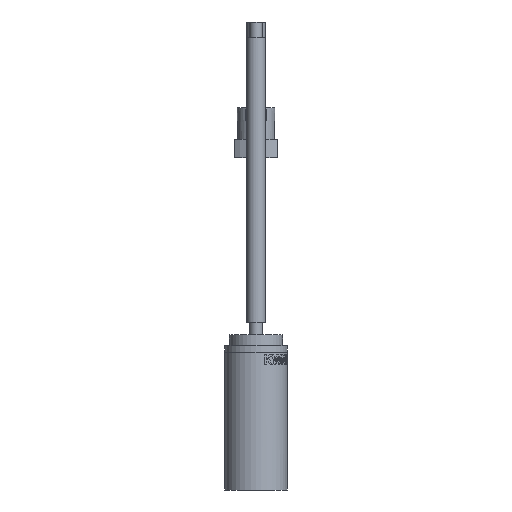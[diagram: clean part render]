
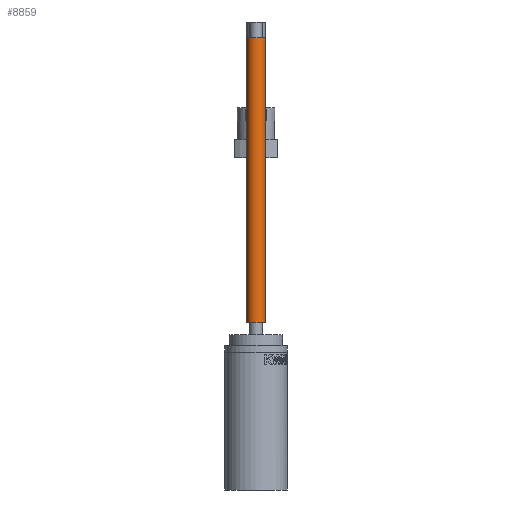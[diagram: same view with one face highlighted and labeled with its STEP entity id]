
A CAD part, left-side view. The second image highlights one B-rep face of the part: STEP entity #8859.
In plain terms, the highlighted cylindrical face has radius 1.5 mm (diameter 3 mm), a full revolution.
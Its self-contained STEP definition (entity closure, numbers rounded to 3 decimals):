
#8859=ADVANCED_FACE('',(#9605,#9606),#9072,.T.);
#9072=CYLINDRICAL_SURFACE('',#20312,1.5);
#9605=FACE_BOUND('',#10865,.T.);
#9606=FACE_BOUND('',#10866,.T.);
#10865=EDGE_LOOP('',(#14972));
#10866=EDGE_LOOP('',(#14973));
#14972=ORIENTED_EDGE('',*,*,#18650,.F.);
#14973=ORIENTED_EDGE('',*,*,#18651,.T.);
#16558=VERTEX_POINT('',#45003);
#16559=VERTEX_POINT('',#45005);
#18650=EDGE_CURVE('',#16558,#16558,#19143,.T.);
#18651=EDGE_CURVE('',#16559,#16559,#19144,.T.);
#19143=CIRCLE('',#20310,1.5);
#19144=CIRCLE('',#20311,1.5);
#20310=AXIS2_PLACEMENT_3D('',#45002,#23047,#23048);
#20311=AXIS2_PLACEMENT_3D('',#45004,#23049,#23050);
#20312=AXIS2_PLACEMENT_3D('',#45006,#23051,#23052);
#23047=DIRECTION('',(0.,0.,-1.));
#23048=DIRECTION('',(-1.,0.,0.));
#23049=DIRECTION('',(0.,0.,-1.));
#23050=DIRECTION('',(-1.,0.,0.));
#23051=DIRECTION('',(0.,0.,-1.));
#23052=DIRECTION('',(-1.,0.,0.));
#45002=CARTESIAN_POINT('',(-62.,0.,26.85));
#45003=CARTESIAN_POINT('',(-63.5,0.,26.85));
#45004=CARTESIAN_POINT('',(-62.,0.,72.35));
#45005=CARTESIAN_POINT('',(-63.5,0.,72.35));
#45006=CARTESIAN_POINT('',(-62.,0.,23.1));
